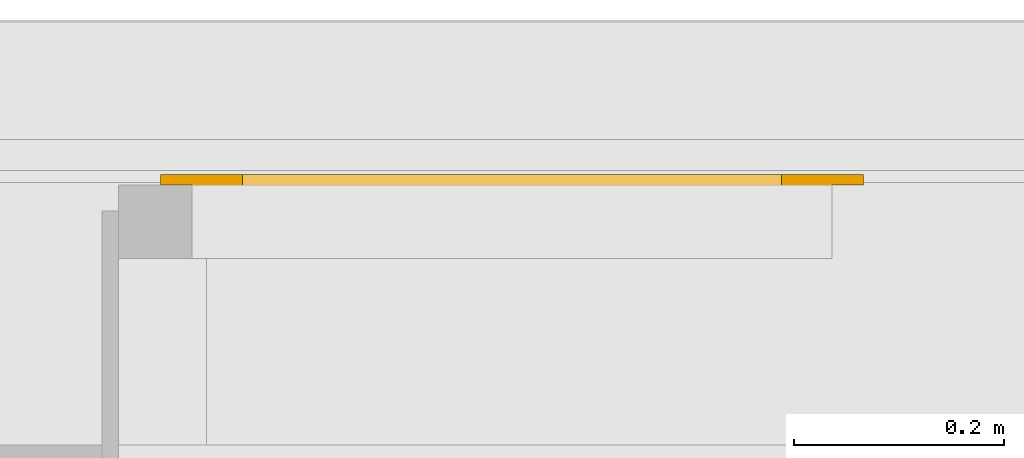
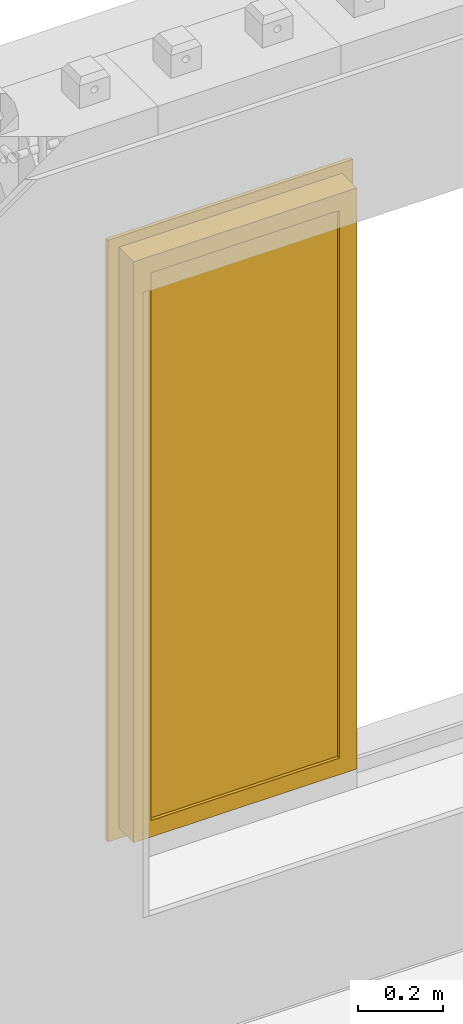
# One storey, part 3 of 4: 1 window.
"""IFC4 building model written with IfcOpenShell, lengths in centimetres."""

from ifc_helpers import new_model, entity, si_unit, converted_unit, direction, frame, origin, place, context, subcontext, project, spatial, polygons, source, transform, mapped, material, constituent, constituent_set, type_object, type_shapes, element, save


model = new_model("IFC4")

# Units and contexts
model_context = context("Model", 3, precision=0.001, world=origin(), true_north=direction((0.0, 1.0)))
body_context = subcontext(model_context, "Body", "Model", "MODEL_VIEW")
ifc_project = project(units=[si_unit("LENGTHUNIT", "METRE", prefix="CENTI"), si_unit("AREAUNIT", "SQUARE_METRE"), si_unit("VOLUMEUNIT", "CUBIC_METRE"), converted_unit("PLANEANGLEUNIT", "DEGREE", entity("IfcPlaneAngleMeasure", 0.017453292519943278), si_unit("PLANEANGLEUNIT", "RADIAN"), dimensions=[0, 0, 0, 0, 0, 0, 0])], contexts=[model_context])

# Site, building, storey
site_placement = place(None, origin())
site = spatial("IfcSite", under=ifc_project, at=site_placement, Name="Default", CompositionType="ELEMENT")
building_placement = place(site_placement, origin())
building = spatial("IfcBuilding", under=site, at=building_placement, CompositionType="ELEMENT")
storey_placement = place(building_placement, frame((0.0, 0.0, -12.0)))
storey = spatial("IfcBuildingStorey", under=building, at=storey_placement, Name="L00__ABOVE Slab", CompositionType="ELEMENT", Elevation=-12.000000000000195)

# Window
ifc_material_1 = material(Name="Miscellaneous_Profile_Aluminium", Category="Miscellaneous")
ifc_constituent_1 = constituent(ifc_material_1, Name="Miscellaneous_Profile_Aluminium", Category="Miscellaneous", fraction=0.4632033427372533)
ifc_material_2 = material(Name="Unassigned_Glazing", Category="Unassigned")
ifc_constituent_2 = constituent(ifc_material_2, Name="Unassigned_Glazing", Category="Unassigned", fraction=0.5367966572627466)
ifc_constituent_set_1 = constituent_set(constituents=[ifc_constituent_1, ifc_constituent_2])
ifc_constituent_3 = constituent(ifc_material_1, Name="_SASH", Category="Miscellaneous", fraction=0.4397097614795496)
ifc_constituent_4 = constituent(ifc_material_2, Name="_GLAZING", Category="Unassigned", fraction=0.5602902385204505)
ifc_constituent_set_2 = constituent_set(constituents=[ifc_constituent_3, ifc_constituent_4])
window_type = type_object("IfcWindowType", Name="Windows : wdw_s__PANEL__Mobile, Hung, Interior__wp : Glazed, Bottom&side hung", PartitioningType="NOTDEFINED", PredefinedType="WINDOW", material=ifc_constituent_set_2)
shared_shape = source(origin(), body_context, "Body", "Tessellation", [
    polygons([(-2.5828829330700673e-44, 2.696870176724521e-13, 0.0), (60.99999999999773, 7.292813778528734e-14, 0.0), (60.99999999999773, 7.292813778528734e-14, 167.80000000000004), (-2.5828829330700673e-44, 2.696870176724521e-13, 167.80000000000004), (4.799999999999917, 2.540166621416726e-13, 163.0000000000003), (56.19999999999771, 8.859849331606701e-14, 163.00000000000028), (56.19999999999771, 8.859849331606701e-14, 4.800000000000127), (4.799999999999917, 2.540166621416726e-13, 4.80000000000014), (2.4062837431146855e-14, 7.000000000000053, 167.80000000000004), (2.2558417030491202e-14, 7.000000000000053, 0.0), (60.99999999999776, 7.000000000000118, 0.0), (60.99999999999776, 7.000000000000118, 167.80000000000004), (4.799999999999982, 8.00000000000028, 4.800000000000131), (4.799999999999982, 8.00000000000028, 163.0000000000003), (56.19999999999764, 8.000000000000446, 4.800000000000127), (56.199999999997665, 8.000000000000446, 163.00000000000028), (-3.0000000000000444, 6.99999999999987, -2.999999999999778), (63.999999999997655, 7.000000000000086, -2.999999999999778), (63.999999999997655, 7.000000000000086, 170.80000000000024), (-3.000000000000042, 6.99999999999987, 170.80000000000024), (-3.0000000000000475, 8.000000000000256, -2.999999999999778), (-3.0000000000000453, 8.000000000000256, 170.80000000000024), (63.999999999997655, 8.000000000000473, 170.80000000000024), (63.999999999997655, 8.000000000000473, -2.999999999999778)], [[[1, 2, 3, 4], [5, 6, 7, 8]], [[4, 9, 10, 1]], [[2, 11, 12, 3]], [[1, 10, 11, 2]], [[13, 14, 5, 8]], [[15, 13, 8, 7]], [[16, 15, 7, 6]], [[17, 18, 19, 20], [10, 9, 12, 11]], [[21, 22, 23, 24], [14, 13, 15, 16]], [[24, 18, 17, 21]], [[23, 19, 18, 24]], [[21, 17, 20, 22]], [[3, 12, 9, 4]], [[5, 14, 16, 6]], [[22, 20, 19, 23]]], closed=True),
    polygons([(4.800000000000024, 3.5000000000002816, 163.0000000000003), (56.199999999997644, 3.5000000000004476, 163.00000000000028), (56.199999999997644, 3.5000000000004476, 4.800000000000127), (4.800000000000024, 3.5000000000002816, 4.800000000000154), (4.800000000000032, 0.9000000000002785, 163.0000000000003), (4.800000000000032, 0.9000000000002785, 4.800000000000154), (56.19999999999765, 0.9000000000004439, 4.800000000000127), (56.19999999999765, 0.9000000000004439, 163.00000000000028)], [[[1, 2, 3, 4]], [[5, 1, 4, 6]], [[6, 4, 3, 7]], [[7, 3, 2, 8]], [[5, 6, 7, 8]], [[8, 2, 1, 5]]], closed=True),
])
type_shapes(window_type, [shared_shape])
window_placement = place(storey_placement, frame((2842.1309287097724, 434.0332599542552, 63.0)))
element("IfcWindow", 1, at=window_placement, inside=storey, type_object=window_type, material=ifc_constituent_set_1, Name="Windows : wdw_s__PANEL__Mobile, Hung, Interior__wp : Glazed, Bottom&side hung", OverallHeight=98.00000000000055, OverallWidth=71.9999999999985, PartitioningType="NOTDEFINED", PredefinedType="WINDOW", context=body_context, shape_type="MappedRepresentation", body=[
    mapped(shared_shape, transform((0.0, 0.0, 0.0), scale=1.0)),
])

save(model, "model.ifc")
